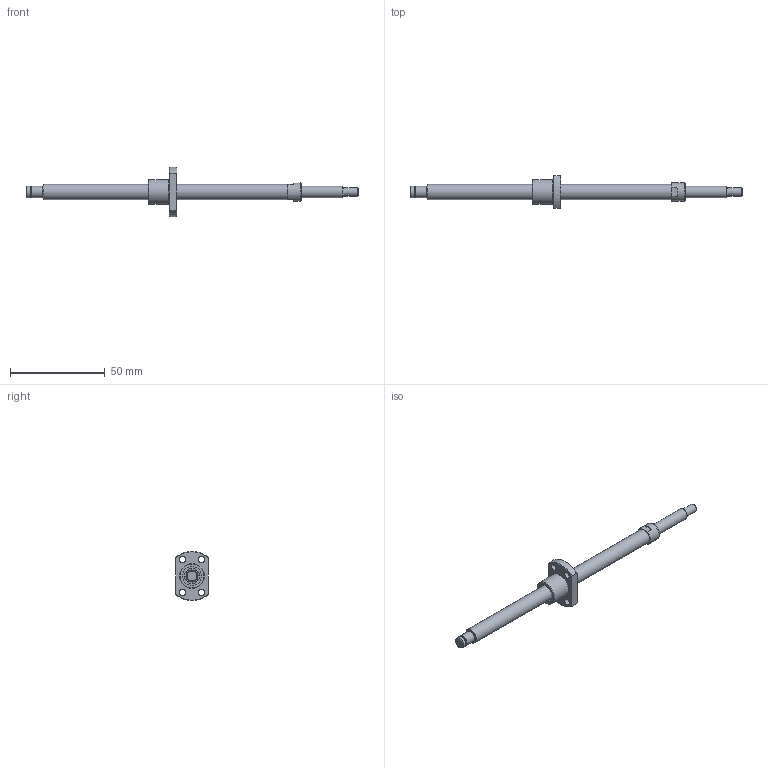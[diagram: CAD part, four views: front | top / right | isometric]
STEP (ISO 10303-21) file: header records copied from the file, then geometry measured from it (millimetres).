
FILE_DESCRIPTION(/* description */ ('STEP AP203'),/* implementation_level */ '2;1');
FILE_NAME(/* name */ 'BNK0801-3G0+175LC5Y(70.5)',/* time_stamp */ '2024-07-09T08:29:22+02:00',/* author */ ('License CC BY-ND 4.0'),/* organization */ ('CADENAS'),/* preprocessor_version */ 'ST-DEVELOPER v19.3',/* originating_system */ 'PARTsolutions',/* authorisation */ ' ');
FILE_SCHEMA (('CONFIG_CONTROL_DESIGN'));
Length unit declared in the file: millimetre
Products named in the file (3): BNK0801-3G0+175LC5Y(70.5); BNK 0801-3G0+175LC5Y Shaft; BNK 0801-3G0+175LC5Y Nut
Assembly tree (2 placements, depth 2):
  BNK0801-3G0+175LC5Y(70.5)
    BNK 0801-3G0+175LC5Y Shaft
    BNK 0801-3G0+175LC5Y Nut
Bounding box: 175 x 17 x 25.92 mm (x, y, z)
Volume: 10032.4 mm3; surface area: 6262.9 mm2
Topology: 2 solids, 2 shells, 50 faces, 101 edges, 64 vertices
Faces by surface type: plane 21, cylinder 18, cone 9, torus 2
Full cylindrical faces by diameter (mm): 3.4 x4, 4.5 x1, 5.7 x1, 6 x3, 8 x2, 9.5 x1, 10 x2, 12 x1, 13 x1
Entity records: 1295 total; most frequent: DIRECTION 226, CARTESIAN_POINT 217, ORIENTED_EDGE 154, AXIS2_PLACEMENT_3D 104, EDGE_LOOP 92, FACE_BOUND 92, EDGE_CURVE 77, VERTEX_POINT 63
